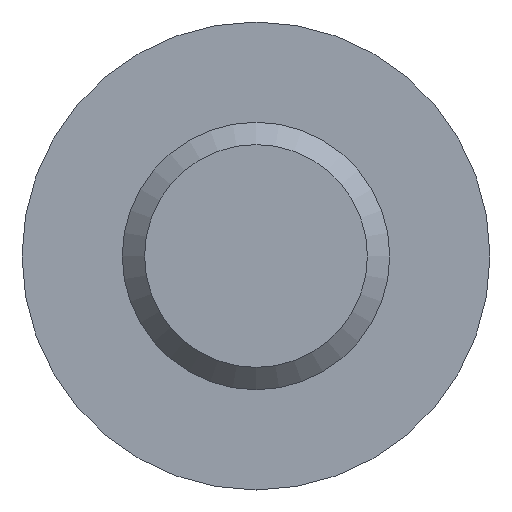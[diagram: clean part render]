
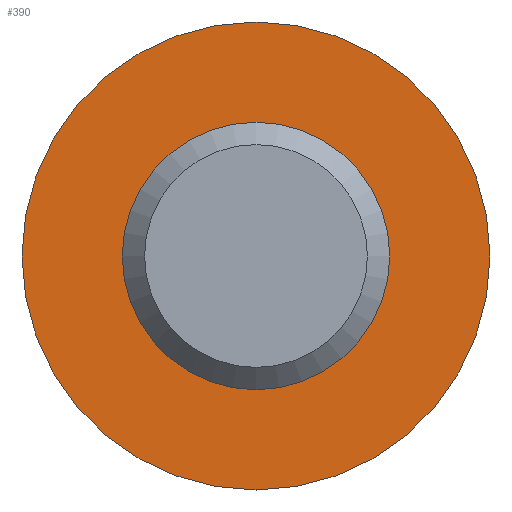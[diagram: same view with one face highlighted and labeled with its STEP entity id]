
A CAD part, front view. The second image highlights one B-rep face of the part: STEP entity #390.
In plain terms, the highlighted planar face has unit normal (0, -1, 0).
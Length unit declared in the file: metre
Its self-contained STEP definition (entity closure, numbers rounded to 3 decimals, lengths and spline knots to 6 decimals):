
#31=FACE_BOUND('',#76,.T.);
#49=FACE_OUTER_BOUND('',#75,.T.);
#75=EDGE_LOOP('',(#298));
#76=EDGE_LOOP('',(#299));
#95=CIRCLE('',#416,0.003);
#105=CIRCLE('',#433,0.00525);
#167=VERTEX_POINT('',#590);
#189=VERTEX_POINT('',#717);
#207=EDGE_CURVE('',#167,#167,#95,.F.);
#236=EDGE_CURVE('',#189,#189,#105,.T.);
#298=ORIENTED_EDGE('',*,*,#236,.F.);
#299=ORIENTED_EDGE('',*,*,#207,.F.);
#368=PLANE('',#432);
#390=ADVANCED_FACE('',(#49,#31),#368,.F.);
#416=AXIS2_PLACEMENT_3D('',#591,#481,#482);
#432=AXIS2_PLACEMENT_3D('',#716,#519,#520);
#433=AXIS2_PLACEMENT_3D('',#718,#521,#522);
#481=DIRECTION('center_axis',(0.,1.,0.));
#482=DIRECTION('ref_axis',(-1.,0.,0.));
#519=DIRECTION('center_axis',(0.,1.,0.));
#520=DIRECTION('ref_axis',(0.,0.,1.));
#521=DIRECTION('center_axis',(0.,1.,0.));
#522=DIRECTION('ref_axis',(-1.,0.,0.));
#590=CARTESIAN_POINT('',(-0.003,0.,0.));
#591=CARTESIAN_POINT('Origin',(0.,0.,
0.));
#716=CARTESIAN_POINT('Origin',(0.,0.,
0.));
#717=CARTESIAN_POINT('',(-0.00525,0.,0.));
#718=CARTESIAN_POINT('Origin',(0.,0.,
0.));
